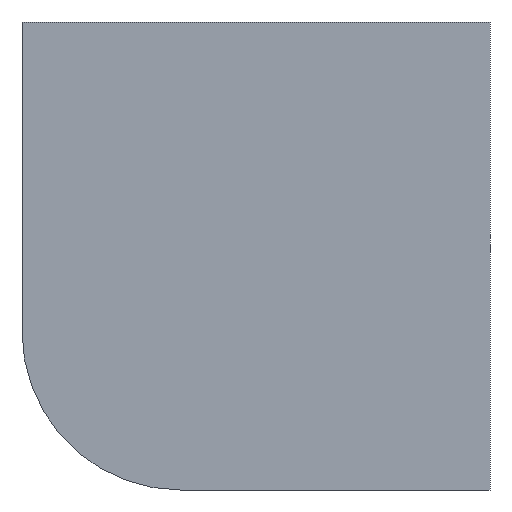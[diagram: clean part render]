
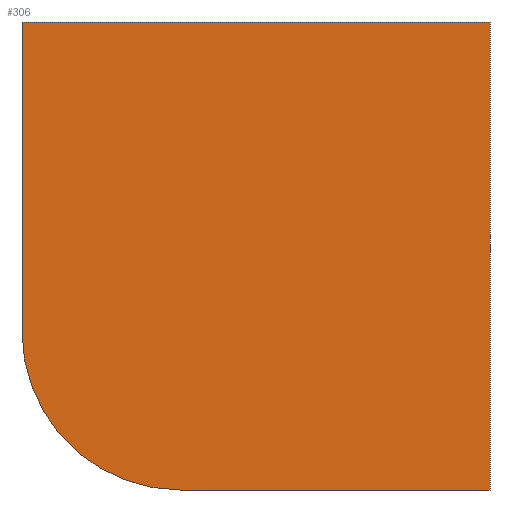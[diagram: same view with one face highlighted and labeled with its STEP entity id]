
A CAD part, front view. The second image highlights one B-rep face of the part: STEP entity #306.
In plain terms, the highlighted planar face has unit normal (0, -1, 0).
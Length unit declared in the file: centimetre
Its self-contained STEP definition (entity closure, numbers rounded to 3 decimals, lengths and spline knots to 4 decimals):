
#2 = EDGE_CURVE ( 'NONE', #67, #426, #7, .T. ) ;
#7 = LINE ( 'NONE', #665, #607 ) ;
#18 = ORIENTED_EDGE ( 'NONE', *, *, #372, .T. ) ;
#21 = LINE ( 'NONE', #88, #446 ) ;
#30 = DIRECTION ( 'NONE',  ( 0., 0., -1. ) ) ;
#39 = DIRECTION ( 'NONE',  ( 0., 1., 0. ) ) ;
#67 = VERTEX_POINT ( 'NONE', #178 ) ;
#88 = CARTESIAN_POINT ( 'NONE',  ( 1000., 0., 1000. ) ) ;
#107 = CARTESIAN_POINT ( 'NONE',  ( 1000., 0., 1000. ) ) ;
#116 = CARTESIAN_POINT ( 'NONE',  ( 1000., 0., 0. ) ) ;
#122 = CIRCLE ( 'NONE', #557, 338.6878 ) ;
#123 = ORIENTED_EDGE ( 'NONE', *, *, #2, .T. ) ;
#151 = VERTEX_POINT ( 'NONE', #588 ) ;
#178 = CARTESIAN_POINT ( 'NONE',  ( 338.6878, 0., 0. ) ) ;
#220 = EDGE_LOOP ( 'NONE', ( #18, #486, #123, #709, #704 ) ) ;
#224 = AXIS2_PLACEMENT_3D ( 'NONE', #570, #39, #297 ) ;
#248 = CARTESIAN_POINT ( 'NONE',  ( 338.6878, 0., 338.6878 ) ) ;
#254 = VERTEX_POINT ( 'NONE', #107 ) ;
#266 = DIRECTION ( 'NONE',  ( 1., 0., 0. ) ) ;
#281 = EDGE_CURVE ( 'NONE', #151, #254, #374, .T. ) ;
#282 = DIRECTION ( 'NONE',  ( 1., 0., 0. ) ) ;
#297 = DIRECTION ( 'NONE',  ( 0., 0., 1. ) ) ;
#306 = ADVANCED_FACE ( 'NONE', ( #460 ), #693, .F. ) ;
#310 = DIRECTION ( 'NONE',  ( 0., 0., 1. ) ) ;
#372 = EDGE_CURVE ( 'NONE', #151, #575, #415, .T. ) ;
#374 = LINE ( 'NONE', #595, #601 ) ;
#390 = EDGE_CURVE ( 'NONE', #575, #67, #122, .T. ) ;
#415 = LINE ( 'NONE', #637, #605 ) ;
#419 = DIRECTION ( 'NONE',  ( 0., 0., -1. ) ) ;
#426 = VERTEX_POINT ( 'NONE', #116 ) ;
#439 = EDGE_CURVE ( 'NONE', #254, #426, #21, .T. ) ;
#446 = VECTOR ( 'NONE', #30, 100. ) ;
#460 = FACE_OUTER_BOUND ( 'NONE', #220, .T. ) ;
#486 = ORIENTED_EDGE ( 'NONE', *, *, #390, .T. ) ;
#557 = AXIS2_PLACEMENT_3D ( 'NONE', #248, #642, #310 ) ;
#570 = CARTESIAN_POINT ( 'NONE',  ( 0., 0., 1000. ) ) ;
#575 = VERTEX_POINT ( 'NONE', #679 ) ;
#588 = CARTESIAN_POINT ( 'NONE',  ( 0., 0., 1000. ) ) ;
#595 = CARTESIAN_POINT ( 'NONE',  ( 0., 0., 1000. ) ) ;
#601 = VECTOR ( 'NONE', #266, 100. ) ;
#605 = VECTOR ( 'NONE', #419, 100. ) ;
#607 = VECTOR ( 'NONE', #282, 100. ) ;
#637 = CARTESIAN_POINT ( 'NONE',  ( 0., 0., 1000. ) ) ;
#642 = DIRECTION ( 'NONE',  ( 0., -1., 0. ) ) ;
#665 = CARTESIAN_POINT ( 'NONE',  ( 0., 0., 0. ) ) ;
#679 = CARTESIAN_POINT ( 'NONE',  ( 0., 0., 338.6878 ) ) ;
#693 = PLANE ( 'NONE',  #224 ) ;
#704 = ORIENTED_EDGE ( 'NONE', *, *, #281, .F. ) ;
#709 = ORIENTED_EDGE ( 'NONE', *, *, #439, .F. ) ;
